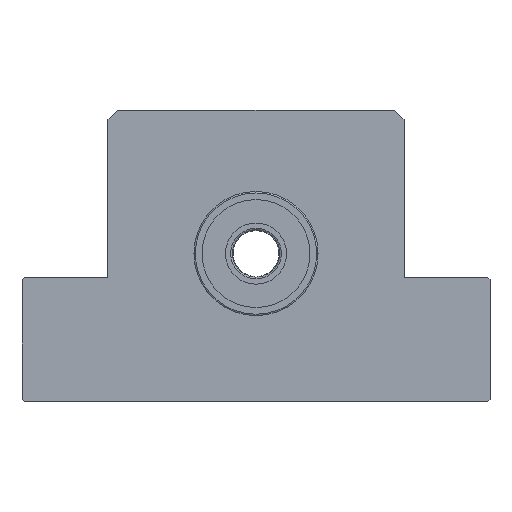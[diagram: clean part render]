
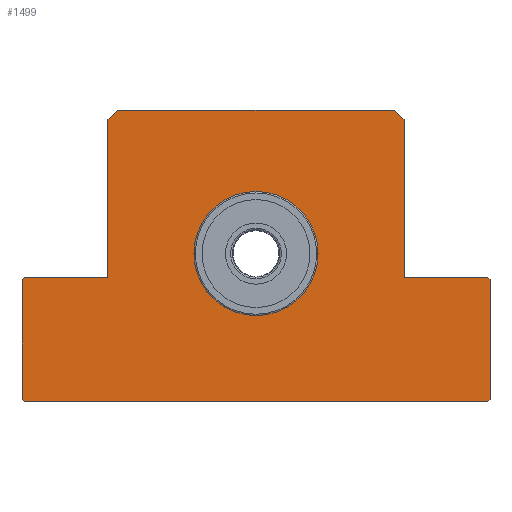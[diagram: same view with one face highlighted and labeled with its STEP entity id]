
A CAD part, top view. The second image highlights one B-rep face of the part: STEP entity #1499.
In plain terms, the highlighted planar face has unit normal (0, 0, 1).
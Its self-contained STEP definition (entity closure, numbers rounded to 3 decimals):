
#9 = DIRECTION ( 'NONE',  ( -1., 0., 0. ) ) ;
#30 = CARTESIAN_POINT ( 'NONE',  ( -48.5, -5., 20. ) ) ;
#40 = ORIENTED_EDGE ( 'NONE', *, *, #1851, .T. ) ;
#51 = EDGE_CURVE ( 'NONE', #2774, #732, #61, .T. ) ;
#56 = CARTESIAN_POINT ( 'NONE',  ( -29., 30., 20. ) ) ;
#61 = CIRCLE ( 'NONE', #647, 13. ) ;
#69 = ORIENTED_EDGE ( 'NONE', *, *, #2608, .T. ) ;
#94 = CARTESIAN_POINT ( 'NONE',  ( 48.5, -5., 20. ) ) ;
#144 = EDGE_CURVE ( 'NONE', #1576, #3317, #292, .T. ) ;
#166 = VECTOR ( 'NONE', #3097, 1000. ) ;
#218 = CARTESIAN_POINT ( 'NONE',  ( 48.5, -31., 20. ) ) ;
#222 = ORIENTED_EDGE ( 'NONE', *, *, #1073, .T. ) ;
#227 = LINE ( 'NONE', #959, #1043 ) ;
#254 = CARTESIAN_POINT ( 'NONE',  ( -31., -5., 20. ) ) ;
#265 = DIRECTION ( 'NONE',  ( -0.707, -0.707, 0. ) ) ;
#292 = LINE ( 'NONE', #324, #2378 ) ;
#324 = CARTESIAN_POINT ( 'NONE',  ( -48.5, -31., 20. ) ) ;
#375 = EDGE_CURVE ( 'NONE', #1828, #2681, #2455, .T. ) ;
#575 = LINE ( 'NONE', #3158, #3064 ) ;
#578 = CARTESIAN_POINT ( 'NONE',  ( 48.5, -31., 20. ) ) ;
#584 = CARTESIAN_POINT ( 'NONE',  ( 49., -5.5, 20. ) ) ;
#647 = AXIS2_PLACEMENT_3D ( 'NONE', #1557, #2553, #2801 ) ;
#653 = DIRECTION ( 'NONE',  ( 0., -1., 0. ) ) ;
#669 = LINE ( 'NONE', #3211, #2942 ) ;
#670 = VECTOR ( 'NONE', #807, 1000. ) ;
#672 = VERTEX_POINT ( 'NONE', #2631 ) ;
#712 = ORIENTED_EDGE ( 'NONE', *, *, #2860, .T. ) ;
#727 = CARTESIAN_POINT ( 'NONE',  ( -31., 28., 20. ) ) ;
#732 = VERTEX_POINT ( 'NONE', #1082 ) ;
#805 = DIRECTION ( 'NONE',  ( 0., 1., 0. ) ) ;
#807 = DIRECTION ( 'NONE',  ( 0.707, 0.707, 0. ) ) ;
#815 = DIRECTION ( 'NONE',  ( -0.707, 0.707, 0. ) ) ;
#827 = LINE ( 'NONE', #1340, #1489 ) ;
#959 = CARTESIAN_POINT ( 'NONE',  ( -49., -30.5, 20. ) ) ;
#985 = CARTESIAN_POINT ( 'NONE',  ( 0., 0., 20. ) ) ;
#988 = CARTESIAN_POINT ( 'NONE',  ( -49., -5.5, 20. ) ) ;
#1029 = VERTEX_POINT ( 'NONE', #1737 ) ;
#1043 = VECTOR ( 'NONE', #3287, 1000. ) ;
#1058 = VERTEX_POINT ( 'NONE', #1632 ) ;
#1072 = DIRECTION ( 'NONE',  ( -1., 0., 0. ) ) ;
#1073 = EDGE_CURVE ( 'NONE', #3177, #3256, #575, .T. ) ;
#1082 = CARTESIAN_POINT ( 'NONE',  ( -13., 0., 20. ) ) ;
#1217 = EDGE_CURVE ( 'NONE', #2626, #1980, #3142, .T. ) ;
#1253 = AXIS2_PLACEMENT_3D ( 'NONE', #1401, #3187, #1593 ) ;
#1330 = DIRECTION ( 'NONE',  ( 1., 0., 0. ) ) ;
#1340 = CARTESIAN_POINT ( 'NONE',  ( -48.5, -5., 20. ) ) ;
#1346 = LINE ( 'NONE', #94, #2638 ) ;
#1369 = DIRECTION ( 'NONE',  ( -0.707, -0.707, 0. ) ) ;
#1401 = CARTESIAN_POINT ( 'NONE',  ( 0., 0., 20. ) ) ;
#1418 = EDGE_CURVE ( 'NONE', #2726, #2626, #1823, .T. ) ;
#1428 = CIRCLE ( 'NONE', #1253, 13. ) ;
#1489 = VECTOR ( 'NONE', #265, 1000. ) ;
#1499 = ADVANCED_FACE ( 'NONE', ( #2268, #1519 ), #2059, .T. ) ;
#1519 = FACE_BOUND ( 'NONE', #3070, .T. ) ;
#1557 = CARTESIAN_POINT ( 'NONE',  ( 0., 0., 20. ) ) ;
#1558 = DIRECTION ( 'NONE',  ( 1., 0., 0. ) ) ;
#1569 = EDGE_CURVE ( 'NONE', #672, #1058, #3314, .T. ) ;
#1576 = VERTEX_POINT ( 'NONE', #2026 ) ;
#1583 = CARTESIAN_POINT ( 'NONE',  ( 48.5, -5., 20. ) ) ;
#1593 = DIRECTION ( 'NONE',  ( 1., 0., 0. ) ) ;
#1594 = VECTOR ( 'NONE', #2523, 1000. ) ;
#1595 = ORIENTED_EDGE ( 'NONE', *, *, #1875, .T. ) ;
#1608 = VECTOR ( 'NONE', #2932, 1000. ) ;
#1628 = ORIENTED_EDGE ( 'NONE', *, *, #1418, .T. ) ;
#1632 = CARTESIAN_POINT ( 'NONE',  ( -49., -30.5, 20. ) ) ;
#1643 = VERTEX_POINT ( 'NONE', #30 ) ;
#1666 = EDGE_CURVE ( 'NONE', #3316, #1643, #3119, .T. ) ;
#1704 = EDGE_LOOP ( 'NONE', ( #2555, #40, #222, #1595, #1628, #3216, #2237, #2101, #2561, #2936, #712, #2003, #69, #1738 ) ) ;
#1737 = CARTESIAN_POINT ( 'NONE',  ( 49., -30.5, 20. ) ) ;
#1738 = ORIENTED_EDGE ( 'NONE', *, *, #2614, .T. ) ;
#1769 = CARTESIAN_POINT ( 'NONE',  ( -31., -5., 20. ) ) ;
#1804 = EDGE_CURVE ( 'NONE', #732, #2774, #1428, .T. ) ;
#1823 = LINE ( 'NONE', #2288, #2718 ) ;
#1828 = VERTEX_POINT ( 'NONE', #584 ) ;
#1851 = EDGE_CURVE ( 'NONE', #2681, #3177, #1346, .T. ) ;
#1852 = CARTESIAN_POINT ( 'NONE',  ( 49., -30.5, 20. ) ) ;
#1875 = EDGE_CURVE ( 'NONE', #3256, #2726, #2668, .T. ) ;
#1944 = CARTESIAN_POINT ( 'NONE',  ( 13., 0., 20. ) ) ;
#1980 = VERTEX_POINT ( 'NONE', #727 ) ;
#1983 = DIRECTION ( 'NONE',  ( -0.707, 0.707, 0. ) ) ;
#2003 = ORIENTED_EDGE ( 'NONE', *, *, #144, .T. ) ;
#2026 = CARTESIAN_POINT ( 'NONE',  ( -48.5, -31., 20. ) ) ;
#2059 = PLANE ( 'NONE',  #2490 ) ;
#2101 = ORIENTED_EDGE ( 'NONE', *, *, #1666, .T. ) ;
#2172 = VECTOR ( 'NONE', #1983, 1000. ) ;
#2187 = CARTESIAN_POINT ( 'NONE',  ( 29., 30., 20. ) ) ;
#2200 = CARTESIAN_POINT ( 'NONE',  ( -29., 30., 20. ) ) ;
#2216 = ORIENTED_EDGE ( 'NONE', *, *, #51, .F. ) ;
#2237 = ORIENTED_EDGE ( 'NONE', *, *, #2814, .T. ) ;
#2268 = FACE_OUTER_BOUND ( 'NONE', #1704, .T. ) ;
#2288 = CARTESIAN_POINT ( 'NONE',  ( 29., 30., 20. ) ) ;
#2361 = VECTOR ( 'NONE', #815, 1000. ) ;
#2369 = LINE ( 'NONE', #1852, #1608 ) ;
#2378 = VECTOR ( 'NONE', #1330, 1000. ) ;
#2385 = LINE ( 'NONE', #578, #670 ) ;
#2455 = LINE ( 'NONE', #2712, #2172 ) ;
#2490 = AXIS2_PLACEMENT_3D ( 'NONE', #985, #3056, #1558 ) ;
#2520 = EDGE_CURVE ( 'NONE', #1643, #672, #827, .T. ) ;
#2523 = DIRECTION ( 'NONE',  ( 0., -1., 0. ) ) ;
#2550 = VECTOR ( 'NONE', #1369, 1000. ) ;
#2553 = DIRECTION ( 'NONE',  ( 0., 0., 1. ) ) ;
#2555 = ORIENTED_EDGE ( 'NONE', *, *, #375, .T. ) ;
#2561 = ORIENTED_EDGE ( 'NONE', *, *, #2520, .T. ) ;
#2608 = EDGE_CURVE ( 'NONE', #3317, #1029, #2385, .T. ) ;
#2614 = EDGE_CURVE ( 'NONE', #1029, #1828, #2369, .T. ) ;
#2626 = VERTEX_POINT ( 'NONE', #56 ) ;
#2631 = CARTESIAN_POINT ( 'NONE',  ( -49., -5.5, 20. ) ) ;
#2638 = VECTOR ( 'NONE', #1072, 1000. ) ;
#2668 = LINE ( 'NONE', #3153, #2361 ) ;
#2681 = VERTEX_POINT ( 'NONE', #1583 ) ;
#2712 = CARTESIAN_POINT ( 'NONE',  ( 49., -5.5, 20. ) ) ;
#2718 = VECTOR ( 'NONE', #9, 1000. ) ;
#2726 = VERTEX_POINT ( 'NONE', #2187 ) ;
#2767 = ORIENTED_EDGE ( 'NONE', *, *, #1804, .F. ) ;
#2774 = VERTEX_POINT ( 'NONE', #1944 ) ;
#2801 = DIRECTION ( 'NONE',  ( 1., 0., 0. ) ) ;
#2814 = EDGE_CURVE ( 'NONE', #1980, #3316, #669, .T. ) ;
#2860 = EDGE_CURVE ( 'NONE', #1058, #1576, #227, .T. ) ;
#2932 = DIRECTION ( 'NONE',  ( 0., 1., 0. ) ) ;
#2936 = ORIENTED_EDGE ( 'NONE', *, *, #1569, .T. ) ;
#2942 = VECTOR ( 'NONE', #653, 1000. ) ;
#2944 = CARTESIAN_POINT ( 'NONE',  ( 31., -5., 20. ) ) ;
#3056 = DIRECTION ( 'NONE',  ( 0., 0., 1. ) ) ;
#3064 = VECTOR ( 'NONE', #805, 1000. ) ;
#3070 = EDGE_LOOP ( 'NONE', ( #2767, #2216 ) ) ;
#3092 = CARTESIAN_POINT ( 'NONE',  ( 31., 28., 20. ) ) ;
#3097 = DIRECTION ( 'NONE',  ( -1., 0., 0. ) ) ;
#3119 = LINE ( 'NONE', #1769, #166 ) ;
#3142 = LINE ( 'NONE', #2200, #2550 ) ;
#3153 = CARTESIAN_POINT ( 'NONE',  ( 31., 28., 20. ) ) ;
#3158 = CARTESIAN_POINT ( 'NONE',  ( 31., -5., 20. ) ) ;
#3177 = VERTEX_POINT ( 'NONE', #2944 ) ;
#3187 = DIRECTION ( 'NONE',  ( 0., 0., 1. ) ) ;
#3211 = CARTESIAN_POINT ( 'NONE',  ( -31., 28., 20. ) ) ;
#3216 = ORIENTED_EDGE ( 'NONE', *, *, #1217, .T. ) ;
#3256 = VERTEX_POINT ( 'NONE', #3092 ) ;
#3287 = DIRECTION ( 'NONE',  ( 0.707, -0.707, 0. ) ) ;
#3314 = LINE ( 'NONE', #988, #1594 ) ;
#3316 = VERTEX_POINT ( 'NONE', #254 ) ;
#3317 = VERTEX_POINT ( 'NONE', #218 ) ;
